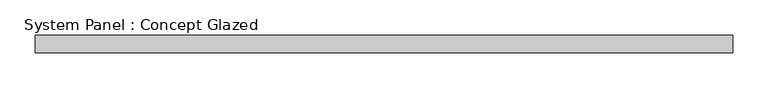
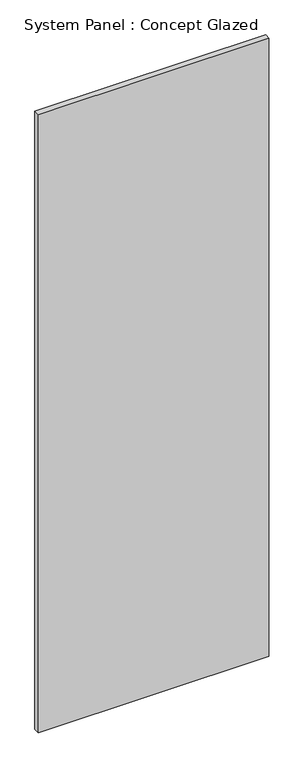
"""IFC4 building model written with IfcOpenShell, lengths in millimetres: plate geometry, System Panel : Concept Glazed."""

from ifc_helpers import new_model, si_unit, origin, origin_with_axes, place, context, project, spatial, polyline, outline, extrude, source, transform, mapped, element, save


def system_panel_concept_glazed_b03cac5a(model_context):
    return source(origin(), model_context, "Body", "SweptSolid", [
        extrude(outline(polyline([(493.9028493, 27.5), (-493.9028493, 27.5), (-493.9028493, 52.5), (493.9028493, 52.5), (493.9028493, 27.5)])), origin_with_axes(), (0.0, 0.0, 1.0), 2800.0),
    ])


if __name__ == "__main__":
    model = new_model("IFC4")
    model_context = context("Model", 3, world=origin())
    ifc_project = project(units=[si_unit("LENGTHUNIT", "METRE", prefix="MILLI")], contexts=[model_context])
    site = spatial("IfcSite", under=ifc_project)
    building = spatial("IfcBuilding", under=site)
    placement = place(None, origin())
    system_panel_concept_glazed_shape = system_panel_concept_glazed_b03cac5a(model_context)
    element("IfcPlate", 1, ObjectType="System Panel : Concept Glazed", at=placement, inside=building, context=model_context, shape_type="MappedRepresentation", body=[
        mapped(system_panel_concept_glazed_shape, transform((0.0, 0.0, 0.0), x_axis=(1.0, 0.0, 0.0), y_axis=(0.0, 1.0, 0.0), z_axis=(0.0, 0.0, 1.0))),
    ])
    save(model, "model.ifc")
